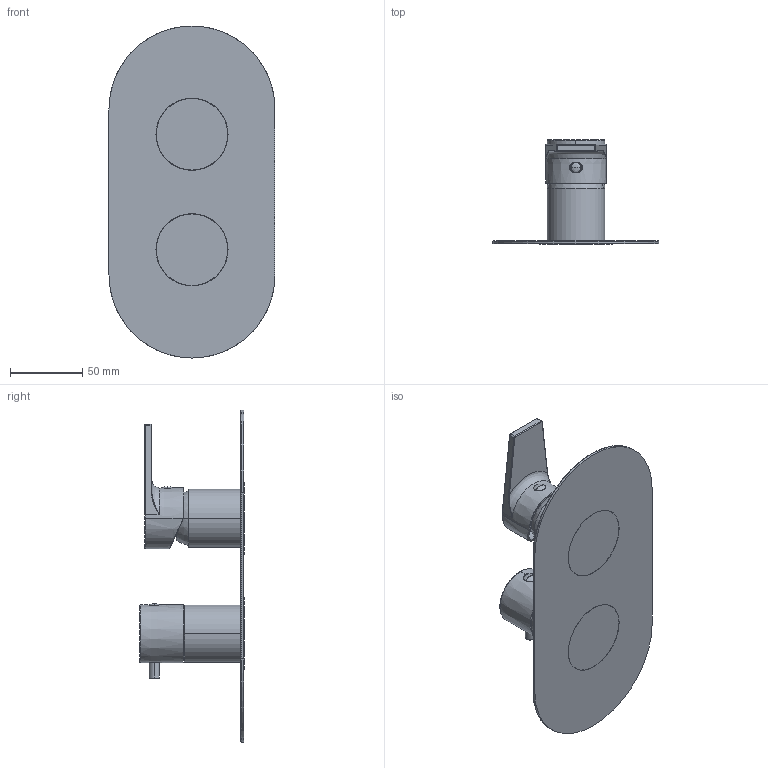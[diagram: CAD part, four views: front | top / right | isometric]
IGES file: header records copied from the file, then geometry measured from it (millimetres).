
Start section:  PTC IGES file: 73513v3_sw0001.igs
Global section: file name: 73513v3_sw0001.igs; native system: Creo Parametric by PTC Inc.; preprocessor: 2018100; author: volponeff; organization: Unknown; date: 20200924.135108; units: millimetre
Bounding box: 115 x 72.2 x 230 mm (x, y, z)
Surface area: 85028.8 mm2 (no closed solid volume)
Topology: 0 solids, 0 shells, 389 faces, 1956 edges, 1950 vertices
Faces by surface type: bspline 212, revolution 123, extrusion 54
